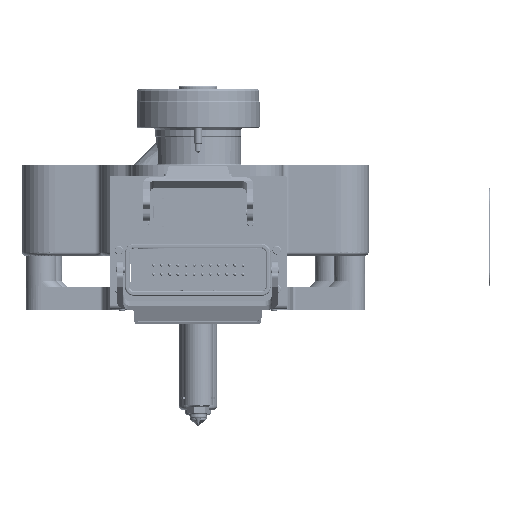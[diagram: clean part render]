
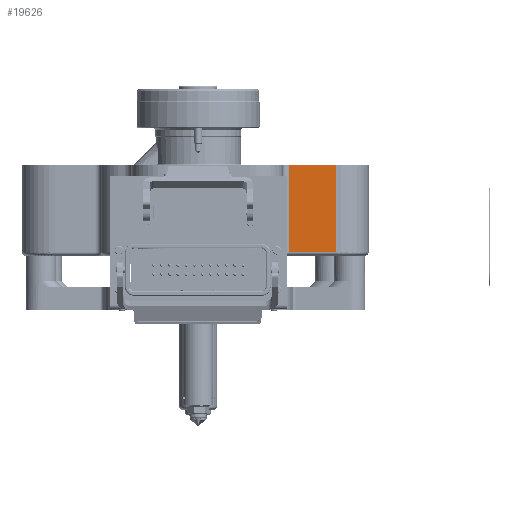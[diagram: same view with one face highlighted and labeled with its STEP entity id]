
A CAD part, left-side view. The second image highlights one B-rep face of the part: STEP entity #19626.
In plain terms, the highlighted planar face has unit normal (-1, 0, 0).
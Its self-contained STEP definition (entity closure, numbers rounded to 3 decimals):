
#14045=FACE_OUTER_BOUND('',#33908,.T.);
#19626=ADVANCED_FACE('',(#14045),#22909,.F.);
#22909=PLANE('',#87888);
#33908=EDGE_LOOP('',(#49106,#49107,#49108,#49109));
#49106=ORIENTED_EDGE('',*,*,#69370,.T.);
#49107=ORIENTED_EDGE('',*,*,#69372,.T.);
#49108=ORIENTED_EDGE('',*,*,#69373,.T.);
#49109=ORIENTED_EDGE('',*,*,#69374,.T.);
#60540=VERTEX_POINT('',#130909);
#60541=VERTEX_POINT('',#130911);
#60542=VERTEX_POINT('',#130915);
#60543=VERTEX_POINT('',#130917);
#69370=EDGE_CURVE('',#60541,#60540,#76561,.T.);
#69372=EDGE_CURVE('',#60540,#60542,#76562,.T.);
#69373=EDGE_CURVE('',#60542,#60543,#76563,.T.);
#69374=EDGE_CURVE('',#60543,#60541,#76564,.T.);
#76561=LINE('',#130910,#81893);
#76562=LINE('',#130914,#81894);
#76563=LINE('',#130916,#81895);
#76564=LINE('',#130918,#81896);
#81893=VECTOR('',#103530,1.);
#81894=VECTOR('',#103535,1.);
#81895=VECTOR('',#103536,1.);
#81896=VECTOR('',#103537,1.);
#87888=AXIS2_PLACEMENT_3D('',#130919,#103538,#103539);
#103530=DIRECTION('',(0.,0.,1.));
#103535=DIRECTION('',(0.,1.,0.));
#103536=DIRECTION('',(0.,0.,-1.));
#103537=DIRECTION('',(0.,-1.,0.));
#103538=DIRECTION('',(1.,0.,0.));
#103539=DIRECTION('',(0.,1.,0.));
#130909=CARTESIAN_POINT('',(-226.507,-113.5,0.));
#130910=CARTESIAN_POINT('',(-226.507,-113.5,-75.));
#130911=CARTESIAN_POINT('',(-226.507,-113.5,-72.));
#130914=CARTESIAN_POINT('',(-226.507,-113.5,0.));
#130915=CARTESIAN_POINT('',(-226.507,-75.,0.));
#130916=CARTESIAN_POINT('',(-226.507,-75.,-75.));
#130917=CARTESIAN_POINT('',(-226.507,-75.,-72.));
#130918=CARTESIAN_POINT('',(-226.507,-113.5,-72.));
#130919=CARTESIAN_POINT('',(-226.507,-113.5,-75.));
